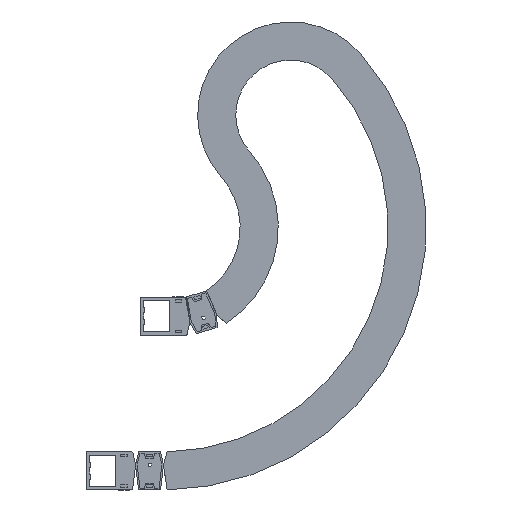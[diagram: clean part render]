
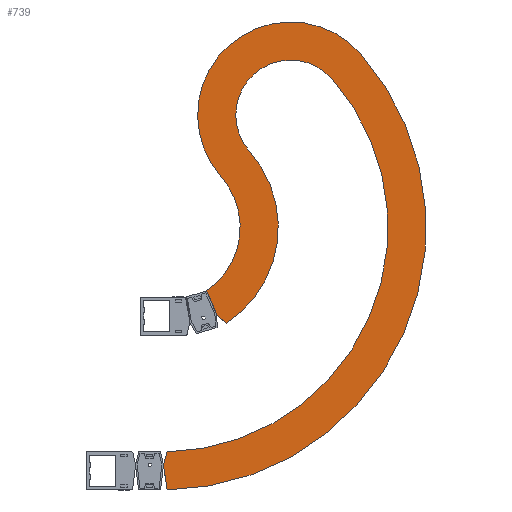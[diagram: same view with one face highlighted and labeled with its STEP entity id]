
A CAD part, front view. The second image highlights one B-rep face of the part: STEP entity #739.
In plain terms, the highlighted planar face has unit normal (0, -1, 0).
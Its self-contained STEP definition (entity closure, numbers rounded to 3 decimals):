
#739 = ADVANCED_FACE( '', ( #1542 ), #1543, .F. );
#1542 = FACE_OUTER_BOUND( '', #2402, .T. );
#1543 = PLANE( '', #2403 );
#2402 = EDGE_LOOP( '', ( #4412, #4413, #4414, #4415, #4416, #4417, #4418, #4419, #4420, #4421 ) );
#2403 = AXIS2_PLACEMENT_3D( '', #4422, #4423, #4424 );
#4412 = ORIENTED_EDGE( '', *, *, #5546, .F. );
#4413 = ORIENTED_EDGE( '', *, *, #5987, .F. );
#4414 = ORIENTED_EDGE( '', *, *, #5967, .F. );
#4415 = ORIENTED_EDGE( '', *, *, #6045, .T. );
#4416 = ORIENTED_EDGE( '', *, *, #5353, .F. );
#4417 = ORIENTED_EDGE( '', *, *, #5876, .F. );
#4418 = ORIENTED_EDGE( '', *, *, #5386, .F. );
#4419 = ORIENTED_EDGE( '', *, *, #6070, .T. );
#4420 = ORIENTED_EDGE( '', *, *, #5425, .T. );
#4421 = ORIENTED_EDGE( '', *, *, #5237, .F. );
#4422 = CARTESIAN_POINT( '', ( 0., -72.5, 0. ) );
#4423 = DIRECTION( '', ( 0., 1., 0. ) );
#4424 = DIRECTION( '', ( 0., 0., 1. ) );
#5237 = EDGE_CURVE( '', #6275, #6277, #6278, .T. );
#5353 = EDGE_CURVE( '', #6482, #6484, #6485, .T. );
#5386 = EDGE_CURVE( '', #6535, #6536, #6537, .T. );
#5425 = EDGE_CURVE( '', #6601, #6277, #6602, .T. );
#5546 = EDGE_CURVE( '', #6807, #6275, #6809, .T. );
#5876 = EDGE_CURVE( '', #6536, #6482, #7317, .T. );
#5967 = EDGE_CURVE( '', #7442, #7443, #7444, .T. );
#5987 = EDGE_CURVE( '', #7443, #6807, #7469, .T. );
#6045 = EDGE_CURVE( '', #7442, #6484, #7546, .T. );
#6070 = EDGE_CURVE( '', #6535, #6601, #7576, .T. );
#6275 = VERTEX_POINT( '', #7821 );
#6277 = VERTEX_POINT( '', #7824 );
#6278 = LINE( '', #7825, #7826 );
#6482 = VERTEX_POINT( '', #8098 );
#6484 = VERTEX_POINT( '', #8101 );
#6485 = LINE( '', #8102, #8103 );
#6535 = VERTEX_POINT( '', #8174 );
#6536 = VERTEX_POINT( '', #8175 );
#6537 = CIRCLE( '', #8176, 247. );
#6601 = VERTEX_POINT( '', #8267 );
#6602 = CIRCLE( '', #8268, 483. );
#6807 = VERTEX_POINT( '', #8556 );
#6809 = LINE( '', #8559, #8560 );
#7317 = LINE( '', #9290, #9291 );
#7442 = VERTEX_POINT( '', #9475 );
#7443 = VERTEX_POINT( '', #9476 );
#7444 = CIRCLE( '', #9477, 200. );
#7469 = CIRCLE( '', #9512, 565. );
#7546 = CIRCLE( '', #9621, 165. );
#7576 = CIRCLE( '', #9662, 118. );
#7821 = CARTESIAN_POINT( '', ( 0., -72.5, -511.2 ) );
#7824 = CARTESIAN_POINT( '', ( 7.82, -72.5, -482.937 ) );
#7825 = CARTESIAN_POINT( '', ( 0., -72.5, -511.2 ) );
#7826 = VECTOR( '', #9919, 1000. );
#8098 = CARTESIAN_POINT( '', ( 114.074, -72.5, -186.71 ) );
#8101 = CARTESIAN_POINT( '', ( 92.675, -72.5, -136.515 ) );
#8102 = CARTESIAN_POINT( '', ( 114.074, -72.5, -186.71 ) );
#8103 = VECTOR( '', #10061, 1000. );
#8174 = CARTESIAN_POINT( '', ( 185.08, -72.5, 163.567 ) );
#8175 = CARTESIAN_POINT( '', ( 135.342, -72.5, -206.619 ) );
#8176 = AXIS2_PLACEMENT_3D( '', #10095, #10096, #10097 );
#8267 = CARTESIAN_POINT( '', ( 361.918, -72.5, 319.85 ) );
#8268 = AXIS2_PLACEMENT_3D( '', #10134, #10135, #10136 );
#8556 = CARTESIAN_POINT( '', ( 7.873, -72.5, -564.945 ) );
#8559 = CARTESIAN_POINT( '', ( 7.873, -72.5, -564.945 ) );
#8560 = VECTOR( '', #10260, 1000. );
#9290 = CARTESIAN_POINT( '', ( 135.342, -72.5, -206.619 ) );
#9291 = VECTOR( '', #10606, 1000. );
#9475 = CARTESIAN_POINT( '', ( 123.637, -72.5, 109.266 ) );
#9476 = CARTESIAN_POINT( '', ( 423.362, -72.5, 374.152 ) );
#9477 = AXIS2_PLACEMENT_3D( '', #10693, #10694, #10695 );
#9512 = AXIS2_PLACEMENT_3D( '', #10715, #10716, #10717 );
#9621 = AXIS2_PLACEMENT_3D( '', #10768, #10769, #10770 );
#9662 = AXIS2_PLACEMENT_3D( '', #10797, #10798, #10799 );
#9919 = DIRECTION( '', ( 0.267, 0., 0.964 ) );
#10061 = DIRECTION( '', ( -0.392, 0., 0.92 ) );
#10095 = CARTESIAN_POINT( '', ( 0., -72.5, 0. ) );
#10096 = DIRECTION( '', ( 0., 1., 0. ) );
#10097 = DIRECTION( '', ( 1., 0., 0. ) );
#10134 = CARTESIAN_POINT( '', ( 0., -72.5, 0. ) );
#10135 = DIRECTION( '', ( 0., 1., 0. ) );
#10136 = DIRECTION( '', ( 1., 0., 0. ) );
#10260 = DIRECTION( '', ( -0.145, 0., 0.989 ) );
#10606 = DIRECTION( '', ( -0.73, 0., 0.683 ) );
#10693 = CARTESIAN_POINT( '', ( 273.499, -72.5, 241.709 ) );
#10694 = DIRECTION( '', ( 0., 1., 0. ) );
#10695 = DIRECTION( '', ( 1., 0., 0. ) );
#10715 = CARTESIAN_POINT( '', ( 0., -72.5, 0. ) );
#10716 = DIRECTION( '', ( 0., 1., 0. ) );
#10717 = DIRECTION( '', ( 1., 0., 0. ) );
#10768 = CARTESIAN_POINT( '', ( 0., -72.5, 0. ) );
#10769 = DIRECTION( '', ( 0., 1., 0. ) );
#10770 = DIRECTION( '', ( 1., 0., 0. ) );
#10797 = CARTESIAN_POINT( '', ( 273.499, -72.5, 241.709 ) );
#10798 = DIRECTION( '', ( 0., 1., 0. ) );
#10799 = DIRECTION( '', ( 1., 0., 0. ) );
